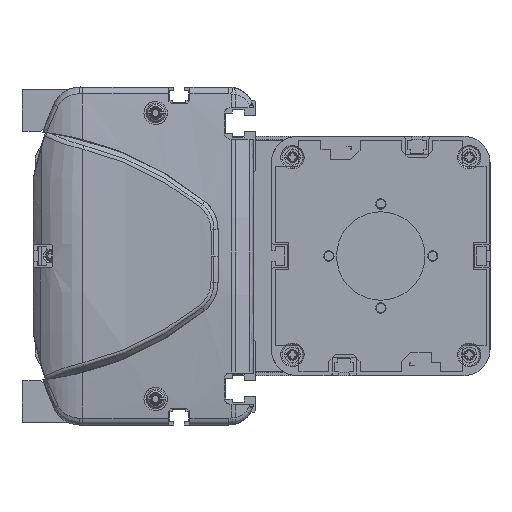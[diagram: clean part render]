
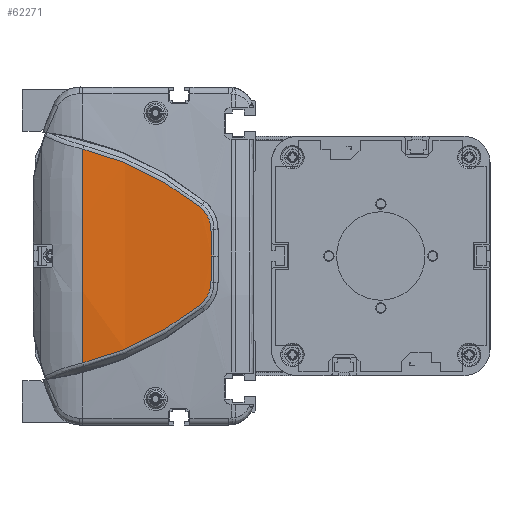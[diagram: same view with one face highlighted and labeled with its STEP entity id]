
A CAD part, left-side view. The second image highlights one B-rep face of the part: STEP entity #62271.
In plain terms, the highlighted cylindrical face has radius 500 mm (diameter 1000 mm), a partial arc.
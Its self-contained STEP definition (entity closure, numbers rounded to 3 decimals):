
#58500=CARTESIAN_POINT('',(-414.,66.962,0.));
#58501=DIRECTION('',(0.,-1.,0.));
#58502=DIRECTION('',(-0.997,0.,0.082));
#58503=AXIS2_PLACEMENT_3D('',#58500,#58501,#58502);
#59386=CARTESIAN_POINT('',(-913.648,21.913,
-18.759));
#59387=CARTESIAN_POINT('',(-913.449,28.504,
-24.058));
#59388=CARTESIAN_POINT('',(-912.934,42.795,
-33.27));
#59389=CARTESIAN_POINT('',(-912.471,58.756,
-39.127));
#59390=CARTESIAN_POINT('',(-912.306,66.962,
-41.121));
#59392=CARTESIAN_POINT('',(-912.306,66.962,
41.121));
#59393=CARTESIAN_POINT('',(-912.471,58.756,
39.127));
#59394=CARTESIAN_POINT('',(-912.934,42.795,
33.27));
#59395=CARTESIAN_POINT('',(-913.449,28.504,
24.058));
#59396=CARTESIAN_POINT('',(-913.648,21.913,
18.759));
#59398=CARTESIAN_POINT('',(-913.648,21.913,
18.759));
#59399=CARTESIAN_POINT('',(-913.686,20.635,
17.736));
#59400=CARTESIAN_POINT('',(-913.779,18.536,
15.107));
#59401=CARTESIAN_POINT('',(-913.863,17.752,
11.827));
#59402=CARTESIAN_POINT('',(-913.896,17.724,
10.178));
#59404=CARTESIAN_POINT('',(-913.896,17.724,
10.178));
#59405=CARTESIAN_POINT('',(-913.92,17.707,
9.024));
#59406=CARTESIAN_POINT('',(-913.959,17.667,
6.731));
#59407=CARTESIAN_POINT('',(-913.993,17.58,
3.337));
#59408=CARTESIAN_POINT('',(-914.,17.498,
1.107));
#59409=CARTESIAN_POINT('',(-914.,17.449,
0.));
#59411=CARTESIAN_POINT('',(-914.,17.449,
0.));
#59412=CARTESIAN_POINT('',(-914.,17.498,
-1.107));
#59413=CARTESIAN_POINT('',(-913.993,17.58,
-3.337));
#59414=CARTESIAN_POINT('',(-913.959,17.667,
-6.731));
#59415=CARTESIAN_POINT('',(-913.92,17.707,
-9.026));
#59416=CARTESIAN_POINT('',(-913.896,17.724,
-10.18));
#59418=CARTESIAN_POINT('',(-913.896,17.724,
-10.18));
#59419=CARTESIAN_POINT('',(-913.863,17.752,
-11.828));
#59420=CARTESIAN_POINT('',(-913.779,18.537,
-15.109));
#59421=CARTESIAN_POINT('',(-913.686,20.635,
-17.736));
#59422=CARTESIAN_POINT('',(-913.648,21.913,
-18.759));
#60093=VERTEX_POINT('',#59386);
#60094=VERTEX_POINT('',#59390);
#60095=CARTESIAN_POINT('',(-912.306,66.962,
41.121));
#60096=VERTEX_POINT('',#60095);
#60097=VERTEX_POINT('',#59396);
#60098=VERTEX_POINT('',#59402);
#60099=VERTEX_POINT('',#59409);
#60100=VERTEX_POINT('',#59416);
#62252=CARTESIAN_POINT('',(-414.,8.606,0.));
#62253=DIRECTION('',(0.,1.,0.));
#62254=DIRECTION('',(1.,0.,0.));
#62255=AXIS2_PLACEMENT_3D('',#62252,#62253,#62254);
#62256=CYLINDRICAL_SURFACE('',#62255,500.);
#62258=ORIENTED_EDGE('',*,*,#62257,.T.);
#62259=ORIENTED_EDGE('',*,*,#60895,.F.);
#62261=ORIENTED_EDGE('',*,*,#62260,.T.);
#62263=ORIENTED_EDGE('',*,*,#62262,.T.);
#62265=ORIENTED_EDGE('',*,*,#62264,.T.);
#62267=ORIENTED_EDGE('',*,*,#62266,.T.);
#62268=ORIENTED_EDGE('',*,*,#62242,.T.);
#62269=EDGE_LOOP('',(#62258,#62259,#62261,#62263,#62265,#62267,#62268));
#62270=FACE_OUTER_BOUND('',#62269,.F.);
#62271=ADVANCED_FACE('',(#62270),#62256,.T.);
#58504=CIRCLE('',#58503,500.);
#59391=B_SPLINE_CURVE_WITH_KNOTS('',3,(#59386,#59387,#59388,#59389,#59390),
.UNSPECIFIED.,.F.,.F.,(4,1,4),(0.,0.5,1.),.UNSPECIFIED.);
#59397=B_SPLINE_CURVE_WITH_KNOTS('',3,(#59392,#59393,#59394,#59395,#59396),
.UNSPECIFIED.,.F.,.F.,(4,1,4),(0.,0.5,1.),.UNSPECIFIED.);
#59403=B_SPLINE_CURVE_WITH_KNOTS('',3,(#59398,#59399,#59400,#59401,#59402),
.UNSPECIFIED.,.F.,.F.,(4,1,4),(0.,0.5,1.),.UNSPECIFIED.);
#59410=B_SPLINE_CURVE_WITH_KNOTS('',3,(#59404,#59405,#59406,#59407,#59408,
#59409),.UNSPECIFIED.,.F.,.F.,(4,1,1,4),(0.,0.333,
0.667,1.),.UNSPECIFIED.);
#59417=B_SPLINE_CURVE_WITH_KNOTS('',3,(#59411,#59412,#59413,#59414,#59415,
#59416),.UNSPECIFIED.,.F.,.F.,(4,1,1,4),(0.,0.333,
0.667,1.),.UNSPECIFIED.);
#59423=B_SPLINE_CURVE_WITH_KNOTS('',3,(#59418,#59419,#59420,#59421,#59422),
.UNSPECIFIED.,.F.,.F.,(4,1,4),(0.,0.5,1.),.UNSPECIFIED.);
#60895=EDGE_CURVE('',#60096,#60094,#58504,.T.);
#62242=EDGE_CURVE('',#60100,#60093,#59423,.T.);
#62257=EDGE_CURVE('',#60093,#60094,#59391,.T.);
#62260=EDGE_CURVE('',#60096,#60097,#59397,.T.);
#62262=EDGE_CURVE('',#60097,#60098,#59403,.T.);
#62264=EDGE_CURVE('',#60098,#60099,#59410,.T.);
#62266=EDGE_CURVE('',#60099,#60100,#59417,.T.);
